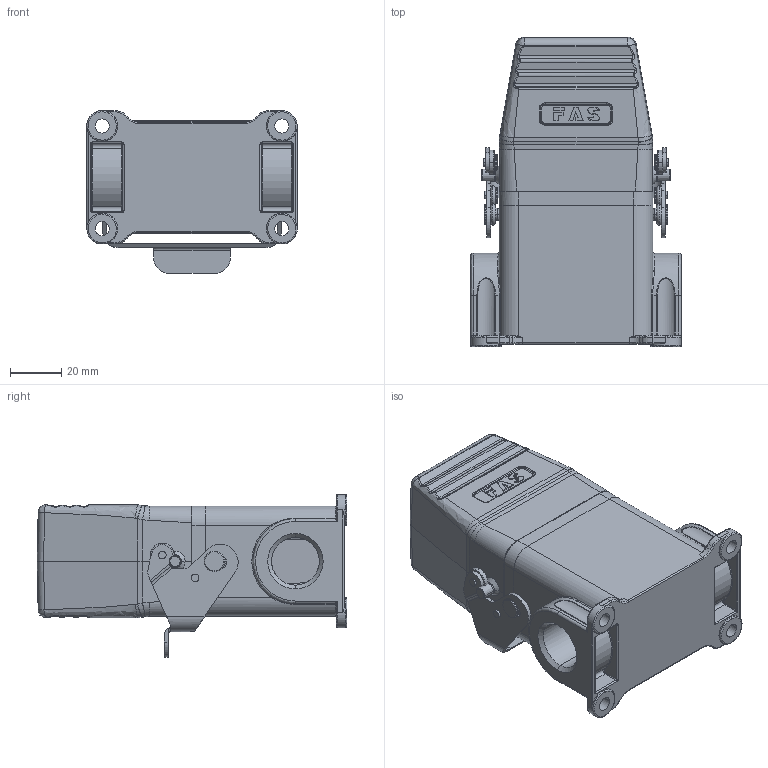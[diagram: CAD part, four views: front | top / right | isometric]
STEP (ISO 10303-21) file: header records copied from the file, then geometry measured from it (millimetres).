
FILE_DESCRIPTION (( 'STEP AP214' ), '1' );
FILE_NAME ('09106104220 HESH、6针、表面底座、顶出M20套件.STEP', '2024-04-26T01:23:15', ( 'L' ), ( '' ), 'SwSTEP 2.0', 'SolidWorks 2019', '' );
FILE_SCHEMA (( 'AUTOMOTIVE_DESIGN' ));
Length unit declared in the file: millimetre
Products named in the file (13): HESH-006-M.stp; 6bdankou.STEP; 6b-surface-m-lowconstruction.STEP; HESH-006-F.stp; maoding.STEP; kahuan.STEP; tanhuang.STEP; asm0002.STEP; maoding1.STEP; 09106104220 HESH、6针、表面底座、顶出M20套件; H6B-TG-M20.step; H6B-SGR-M20.STEP; prt0001.STEP
Assembly tree (18 placements, depth 4):
  09106104220 HESH、6针、表面底座、顶出M20套件
    H6B-TG-M20.step
    H6B-SGR-M20.STEP
      asm0002.STEP
        6bdankou.STEP
        kahuan.STEP  x2
        maoding1.STEP  x4
        tanhuang.STEP  x2
        maoding.STEP  x2
      6b-surface-m-lowconstruction.STEP
      prt0001.STEP
    HESH-006-F.stp
    HESH-006-M.stp
Bounding box: 82 x 120.6 x 63.48 mm (x, y, z)
Volume: 172350.6 mm3; surface area: 93389.7 mm2
Topology: 15 solids, 16 shells, 3160 faces, 8203 edges, 5173 vertices
Faces by surface type: plane 1451, cylinder 797, bspline 548, cone 288, torus 48, sphere 28
Entity records: 121235 total; most frequent: CARTESIAN_POINT 40809, ORIENTED_EDGE 15834, DIRECTION 13314, EDGE_CURVE 7933, VERTEX_POINT 5046, AXIS2_PLACEMENT_3D 4438, LINE 4438, VECTOR 4438
